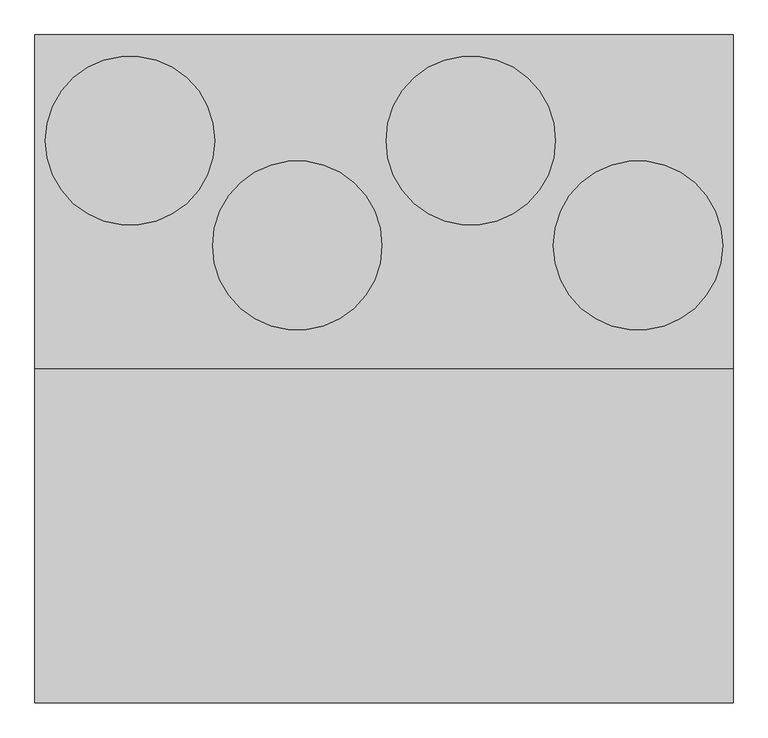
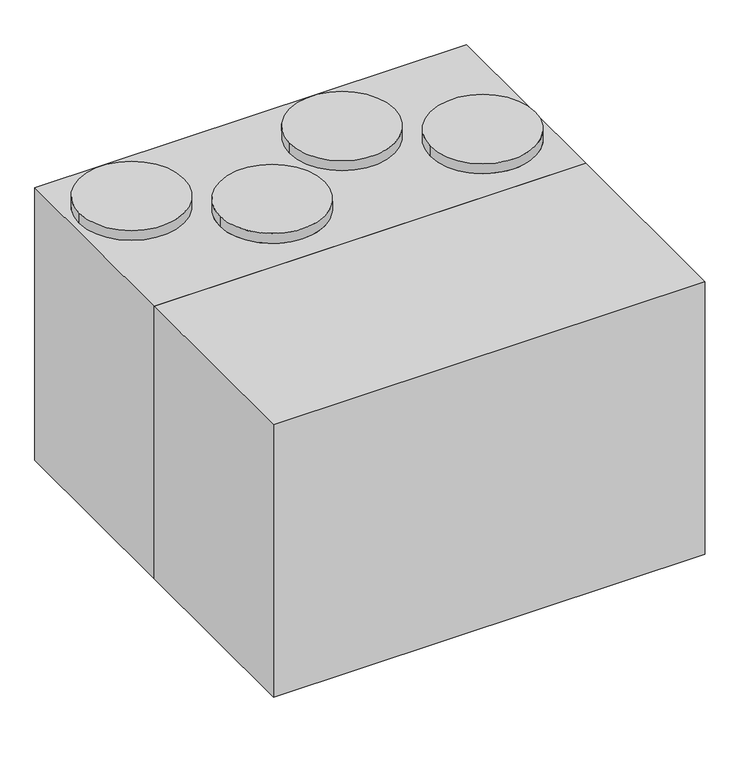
"""IFC4 building model written with IfcOpenShell, lengths in millimetres: proxy geometry, ADSK_КПВУ BRISSAGO VPE_круглая : Brissago VPE 2000."""

from ifc_helpers import new_model, si_unit, frame, origin, place, context, project, spatial, polyline, circle_curve, outline, extrude, source, transform, mapped, element, save
from ifc_brep_helpers import plane_surface, cylinder_surface, advanced_brep


def mechanical_equipment_433b63e0(model_context):
    return source(origin(), model_context, "Body", "SolidModel", [
        extrude(outline(polyline([(1091.0, -395.0), (1091.0, -1185.0), (-559.0, -1185.0), (-559.0, -395.0), (1091.0, -395.0)])), frame((0.0, 0.0, 145.0), z_axis=(0.0, 0.0, 1.0), x_axis=(1.0, 0.0, 0.0)), (0.0, 0.0, 1.0), 1100.0),
        advanced_brep(
        [(-304.0, -395.0, 0.0), (-304.0, -395.0, 145.0), (836.0, -395.0, 145.0), (836.0, -395.0, 0.0), (896.0, -395.0, 0.0), (896.0, -395.0, 145.0), (1091.0, -395.0, 145.0), (1091.0, -395.0, 1245.0), (-559.0, -395.0, 1245.0), (-559.0, -395.0, 145.0), (-364.0, -395.0, 145.0), (-364.0, -395.0, 0.0), (-314.0, -395.0, 10.0), (-354.0, -395.0, 10.0), (-354.0, -395.0, 145.0), (-314.0, -395.0, 145.0), (886.0, -395.0, 10.0), (846.0, -395.0, 10.0), (846.0, -395.0, 145.0), (886.0, -395.0, 145.0), (-304.0, 395.0, 0.0), (-364.0, 395.0, 0.0), (-364.0, 395.0, 145.0), (-559.0, 395.0, 145.0), (-559.0, 395.0, 1245.0), (1091.0, 395.0, 1245.0), (1091.0, 395.0, 145.0), (896.0, 395.0, 145.0), (896.0, 395.0, 0.0), (836.0, 395.0, 0.0), (836.0, 395.0, 145.0), (-304.0, 395.0, 145.0), (-314.0, 395.0, 10.0), (-314.0, 395.0, 145.0), (-354.0, 395.0, 145.0), (-354.0, 395.0, 10.0), (886.0, 395.0, 10.0), (886.0, 395.0, 145.0), (846.0, 395.0, 145.0), (846.0, 395.0, 10.0), (-534.0, 145.0, 1285.0), (-134.0, 145.0, 1285.0), (-139.0, -103.0, 1285.0), (261.0, -103.0, 1285.0), (271.0, 145.0, 1285.0), (671.0, 145.0, 1285.0), (666.0, -103.0, 1285.0), (1066.0, -103.0, 1285.0), (-534.0, 145.0, 1245.0), (-134.0, 145.0, 1245.0), (-139.0, -103.0, 1245.0), (261.0, -103.0, 1245.0), (271.0, 145.0, 1245.0), (671.0, 145.0, 1245.0), (666.0, -103.0, 1245.0), (1066.0, -103.0, 1245.0)],
        [
            (0, 1),
            (1, 2),
            (2, 3),
            (3, 4),
            (4, 5),
            (5, 6),
            (6, 7),
            (7, 8),
            (8, 9),
            (9, 10),
            (10, 11),
            (11, 0),
            (12, 13),
            (13, 14),
            (14, 15),
            (15, 12),
            (16, 17),
            (17, 18),
            (18, 19),
            (19, 16),
            (20, 21),
            (21, 22),
            (22, 23),
            (23, 24),
            (24, 25),
            (25, 26),
            (26, 27),
            (27, 28),
            (28, 29),
            (29, 30),
            (30, 31),
            (31, 20),
            (32, 33),
            (33, 34),
            (34, 35),
            (35, 32),
            (36, 37),
            (37, 38),
            (38, 39),
            (39, 36),
            (21, 11),
            (10, 22),
            (20, 0),
            (31, 1),
            (32, 12),
            (15, 33),
            (35, 13),
            (34, 14),
            (4, 28),
            (27, 5),
            (36, 16),
            (19, 37),
            (39, 17),
            (38, 18),
            (29, 3),
            (2, 30),
            (40, 41, circle_curve(frame((-334.0, 145.0, 1285.0), z_axis=(0.0, 0.0, 1.0), x_axis=(1.0, 0.0, 0.0)), 200.0)),
            (41, 40, circle_curve(frame((-334.0, 145.0, 1285.0), z_axis=(0.0, 0.0, 1.0), x_axis=(1.0, 0.0, 0.0)), 200.0)),
            (42, 43, circle_curve(frame((61.0, -103.0, 1285.0), z_axis=(0.0, 0.0, 1.0), x_axis=(1.0, 0.0, 0.0)), 200.0)),
            (43, 42, circle_curve(frame((61.0, -103.0, 1285.0), z_axis=(0.0, 0.0, 1.0), x_axis=(1.0, 0.0, 0.0)), 200.0)),
            (44, 45, circle_curve(frame((471.0, 145.0, 1285.0), z_axis=(0.0, 0.0, 1.0), x_axis=(1.0, 0.0, 0.0)), 200.0)),
            (45, 44, circle_curve(frame((471.0, 145.0, 1285.0), z_axis=(0.0, 0.0, 1.0), x_axis=(1.0, 0.0, 0.0)), 200.0)),
            (46, 47, circle_curve(frame((866.0, -103.0, 1285.0), z_axis=(0.0, 0.0, 1.0), x_axis=(1.0, 0.0, 0.0)), 200.0)),
            (47, 46, circle_curve(frame((866.0, -103.0, 1285.0), z_axis=(0.0, 0.0, 1.0), x_axis=(1.0, 0.0, 0.0)), 200.0)),
            (40, 48),
            (48, 49, circle_curve(frame((-334.0, 145.0, 1245.0), z_axis=(0.0, 0.0, 1.0), x_axis=(1.0, 0.0, 0.0)), 200.0)),
            (49, 41),
            (49, 48, circle_curve(frame((-334.0, 145.0, 1245.0), z_axis=(0.0, 0.0, 1.0), x_axis=(1.0, 0.0, 0.0)), 200.0)),
            (42, 50),
            (50, 51, circle_curve(frame((61.0, -103.0, 1245.0), z_axis=(0.0, 0.0, 1.0), x_axis=(1.0, 0.0, 0.0)), 200.0)),
            (51, 43),
            (51, 50, circle_curve(frame((61.0, -103.0, 1245.0), z_axis=(0.0, 0.0, 1.0), x_axis=(1.0, 0.0, 0.0)), 200.0)),
            (44, 52),
            (52, 53, circle_curve(frame((471.0, 145.0, 1245.0), z_axis=(0.0, 0.0, 1.0), x_axis=(1.0, 0.0, 0.0)), 200.0)),
            (53, 45),
            (53, 52, circle_curve(frame((471.0, 145.0, 1245.0), z_axis=(0.0, 0.0, 1.0), x_axis=(1.0, 0.0, 0.0)), 200.0)),
            (46, 54),
            (54, 55, circle_curve(frame((866.0, -103.0, 1245.0), z_axis=(0.0, 0.0, 1.0), x_axis=(1.0, 0.0, 0.0)), 200.0)),
            (55, 47),
            (55, 54, circle_curve(frame((866.0, -103.0, 1245.0), z_axis=(0.0, 0.0, 1.0), x_axis=(1.0, 0.0, 0.0)), 200.0)),
            (6, 26),
            (25, 7),
            (8, 24),
            (23, 9),
        ],
        [
            plane_surface(frame((-304.0, -395.0, 0.0), z_axis=(0.0, -1.0, 0.0), x_axis=(0.0, 0.0, 1.0))),
            plane_surface(frame((-304.0, 395.0, 0.0), z_axis=(0.0, 1.0, 0.0), x_axis=(0.0, 0.0, -1.0))),
            plane_surface(frame((-364.0, -395.0, 175.0), z_axis=(-1.0, 0.0, 0.0), x_axis=(0.0, 1.0, 0.0))),
            plane_surface(frame((-364.0, -395.0, 0.0), z_axis=(0.0, 0.0, -1.0), x_axis=(0.0, 1.0, 0.0))),
            plane_surface(frame((-304.0, -395.0, 0.0), z_axis=(1.0, 0.0, 0.0), x_axis=(0.0, 1.0, 0.0))),
            plane_surface(frame((-314.0, -395.0, 175.0), z_axis=(-1.0, 0.0, 0.0), x_axis=(0.0, 1.0, 0.0))),
            plane_surface(frame((-314.0, -395.0, 10.0), z_axis=(0.0, 0.0, 1.0), x_axis=(0.0, 1.0, 0.0))),
            plane_surface(frame((-354.0, -395.0, 10.0), z_axis=(1.0, 0.0, 0.0), x_axis=(0.0, 1.0, 0.0))),
            plane_surface(frame((896.0, -395.0, 0.0), z_axis=(1.0, 0.0, 0.0), x_axis=(0.0, 1.0, 0.0))),
            plane_surface(frame((886.0, -395.0, 175.0), z_axis=(-1.0, 0.0, 0.0), x_axis=(0.0, 1.0, 0.0))),
            plane_surface(frame((886.0, -395.0, 10.0), z_axis=(0.0, 0.0, 1.0), x_axis=(0.0, 1.0, 0.0))),
            plane_surface(frame((846.0, -395.0, 10.0), z_axis=(1.0, 0.0, 0.0), x_axis=(0.0, 1.0, 0.0))),
            plane_surface(frame((836.0, -395.0, 175.0), z_axis=(-1.0, 0.0, 0.0), x_axis=(0.0, 1.0, 0.0))),
            plane_surface(frame((836.0, -395.0, 0.0), z_axis=(0.0, 0.0, -1.0), x_axis=(0.0, 1.0, 0.0))),
            plane_surface(frame((-134.0, 145.0, 1285.0), z_axis=(0.0, 0.0, 1.0), x_axis=(0.0, 1.0, 0.0))),
            cylinder_surface(frame((-334.0, 145.0, 1245.0), z_axis=(0.0, 0.0, 1.0), x_axis=(1.0, 0.0, 0.0)), 200.0),
            cylinder_surface(frame((61.0, -103.0, 0.0), z_axis=(0.0, 0.0, 1.0), x_axis=(1.0, 0.0, 0.0)), 200.0),
            cylinder_surface(frame((471.0, 145.0, 0.0), z_axis=(0.0, 0.0, 1.0), x_axis=(1.0, 0.0, 0.0)), 200.0),
            cylinder_surface(frame((866.0, -103.0, 0.0), z_axis=(0.0, 0.0, 1.0), x_axis=(1.0, 0.0, 0.0)), 200.0),
            plane_surface(frame((1091.0, -395.0, 1245.0), z_axis=(1.0, 0.0, 0.0), x_axis=(0.0, 0.0, -1.0))),
            plane_surface(frame((-559.0, -395.0, 1245.0), z_axis=(-1.0, 0.0, 0.0), x_axis=(0.0, 0.0, 1.0))),
            plane_surface(frame((1091.0, -395.0, 145.0), z_axis=(0.0, 0.0, -1.0), x_axis=(-1.0, 0.0, 0.0))),
            plane_surface(frame((1091.0, 395.0, 1245.0), z_axis=(0.0, 0.0, 1.0), x_axis=(-1.0, 0.0, 0.0))),
        ],
        [
            (0, [[1, 2, 3, 4, 5, 6, 7, 8, 9, 10, 11, 12], [13, 14, 15, 16], [17, 18, 19, 20]]),
            (1, [[21, 22, 23, 24, 25, 26, 27, 28, 29, 30, 31, 32], [33, 34, 35, 36], [37, 38, 39, 40]]),
            (2, [[41, -11, 42, -22]]),
            (3, [[-12, -41, -21, 43]]),
            (4, [[-43, -32, 44, -1]]),
            (5, [[45, -16, 46, -33]]),
            (6, [[-13, -45, -36, 47]]),
            (7, [[-47, -35, 48, -14]]),
            (8, [[49, -28, 50, -5]]),
            (9, [[51, -20, 52, -37]]),
            (10, [[-17, -51, -40, 53]]),
            (11, [[-53, -39, 54, -18]]),
            (12, [[55, -3, 56, -30]]),
            (13, [[-4, -55, -29, -49]]),
            (14, [[57, 58]]),
            (14, [[59, 60]]),
            (14, [[61, 62]]),
            (14, [[63, 64]]),
            (15, [[-57, 65, 66, 67]]),
            (15, [[-58, -67, 68, -65]]),
            (16, [[-59, 69, 70, 71]]),
            (16, [[-60, -71, 72, -69]]),
            (17, [[-61, 73, 74, 75]]),
            (17, [[-62, -75, 76, -73]]),
            (18, [[-63, 77, 78, 79]]),
            (18, [[-64, -79, 80, -77]]),
            (19, [[-7, 81, -26, 82]]),
            (20, [[83, -24, 84, -9]]),
            (21, [[-15, -48, -34, -46]]),
            (21, [[-19, -54, -38, -52]]),
            (21, [[-2, -44, -31, -56]]),
            (21, [[-81, -6, -50, -27]]),
            (21, [[-84, -23, -42, -10]]),
            (22, [[-82, -25, -83, -8], [-66, -68], [-70, -72], [-74, -76], [-78, -80]]),
        ],
    ),
    ])


if __name__ == "__main__":
    model = new_model("IFC4")
    model_context = context("Model", 3, world=origin())
    ifc_project = project(units=[si_unit("LENGTHUNIT", "METRE", prefix="MILLI")], contexts=[model_context])
    site = spatial("IfcSite", under=ifc_project)
    building = spatial("IfcBuilding", under=site)
    placement = place(None, origin())
    mechanical_equipment_shape = mechanical_equipment_433b63e0(model_context)
    element("IfcBuildingElementProxy", 1, Name="ADSK_КПВУ BRISSAGO VPE_круглая : Brissago VPE 2000", ObjectType="ADSK_КПВУ BRISSAGO VPE_круглая : Brissago VPE 2000", at=placement, inside=building, context=model_context, shape_type="MappedRepresentation", body=[
        mapped(mechanical_equipment_shape, transform((0.0, 0.0, 0.0), x_axis=(1.0, 0.0, 0.0), y_axis=(0.0, 1.0, 0.0), z_axis=(0.0, 0.0, 1.0))),
    ])
    save(model, "model.ifc")
